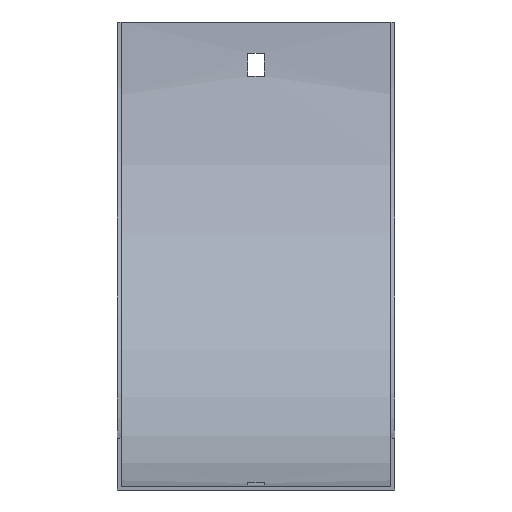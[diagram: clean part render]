
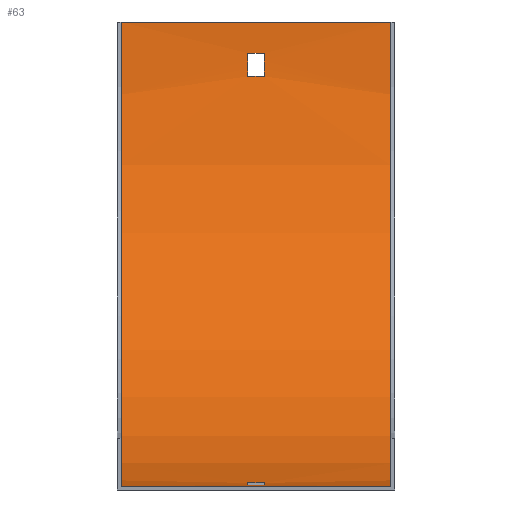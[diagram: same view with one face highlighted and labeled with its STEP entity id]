
A CAD part, front view. The second image highlights one B-rep face of the part: STEP entity #63.
In plain terms, the highlighted cylindrical face has radius 179 mm (diameter 358 mm), a partial arc.
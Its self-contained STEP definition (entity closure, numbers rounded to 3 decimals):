
#10 = CARTESIAN_POINT ( 'NONE',  ( -3.25, -159.5, -177.764 ) ) ;
#27 = VECTOR ( 'NONE', #588, 1000. ) ;
#28 = VERTEX_POINT ( 'NONE', #115 ) ;
#43 = EDGE_CURVE ( 'NONE', #386, #476, #398, .T. ) ;
#49 = CARTESIAN_POINT ( 'NONE',  ( 53.5, -168.5, -178.597 ) ) ;
#63 = ADVANCED_FACE ( 'NONE', ( #392, #579, #152 ), #259, .F. ) ;
#66 = AXIS2_PLACEMENT_3D ( 'NONE', #534, #215, #407 ) ;
#69 = DIRECTION ( 'NONE',  ( 1., 0., 0. ) ) ;
#76 = AXIS2_PLACEMENT_3D ( 'NONE', #154, #347, #489 ) ;
#79 = VERTEX_POINT ( 'NONE', #306 ) ;
#90 = EDGE_CURVE ( 'NONE', #280, #602, #465, .T. ) ;
#94 = DIRECTION ( 'NONE',  ( 1., 0., 0. ) ) ;
#98 = EDGE_CURVE ( 'NONE', #380, #309, #254, .T. ) ;
#103 = ORIENTED_EDGE ( 'NONE', *, *, #236, .T. ) ;
#112 = DIRECTION ( 'NONE',  ( 0., 0., 1. ) ) ;
#115 = CARTESIAN_POINT ( 'NONE',  ( 3.25, -159.5, -177.764 ) ) ;
#118 = CARTESIAN_POINT ( 'NONE',  ( 3.25, -180.5, 0. ) ) ;
#126 = DIRECTION ( 'NONE',  ( 1., 0., 0. ) ) ;
#138 = EDGE_CURVE ( 'NONE', #28, #414, #490, .T. ) ;
#148 = VECTOR ( 'NONE', #385, 1000. ) ;
#152 = FACE_BOUND ( 'NONE', #599, .T. ) ;
#154 = CARTESIAN_POINT ( 'NONE',  ( 53.5, -180.5, 0. ) ) ;
#159 = CARTESIAN_POINT ( 'NONE',  ( 53.5, -2.736, -21. ) ) ;
#160 = CARTESIAN_POINT ( 'NONE',  ( -52., -180.5, 0. ) ) ;
#163 = EDGE_CURVE ( 'NONE', #380, #386, #410, .T. ) ;
#168 = VERTEX_POINT ( 'NONE', #314 ) ;
#176 = DIRECTION ( 'NONE',  ( -1., 0., 0. ) ) ;
#179 = DIRECTION ( 'NONE',  ( 0., 0., 1. ) ) ;
#180 = EDGE_CURVE ( 'NONE', #79, #498, #216, .T. ) ;
#182 = CARTESIAN_POINT ( 'NONE',  ( 3.25, -1.903, -12. ) ) ;
#188 = CARTESIAN_POINT ( 'NONE',  ( 3.25, -168.5, -178.597 ) ) ;
#189 = CARTESIAN_POINT ( 'NONE',  ( 52., -180.5, 0. ) ) ;
#190 = ORIENTED_EDGE ( 'NONE', *, *, #520, .F. ) ;
#193 = DIRECTION ( 'NONE',  ( 1., 0., 0. ) ) ;
#211 = CARTESIAN_POINT ( 'NONE',  ( -52., -1.5, 0. ) ) ;
#215 = DIRECTION ( 'NONE',  ( -1., 0., 0. ) ) ;
#216 = LINE ( 'NONE', #159, #352 ) ;
#218 = AXIS2_PLACEMENT_3D ( 'NONE', #189, #94, #179 ) ;
#219 = EDGE_LOOP ( 'NONE', ( #562, #536, #226, #331 ) ) ;
#226 = ORIENTED_EDGE ( 'NONE', *, *, #98, .T. ) ;
#227 = DIRECTION ( 'NONE',  ( -1., 0., 0. ) ) ;
#228 = ORIENTED_EDGE ( 'NONE', *, *, #90, .F. ) ;
#229 = VECTOR ( 'NONE', #227, 1000. ) ;
#236 = EDGE_CURVE ( 'NONE', #414, #168, #416, .T. ) ;
#246 = CARTESIAN_POINT ( 'NONE',  ( 53.5, -159.5, -177.764 ) ) ;
#249 = CARTESIAN_POINT ( 'NONE',  ( 52., -180.5, -179. ) ) ;
#254 = CIRCLE ( 'NONE', #218, 179. ) ;
#258 = CARTESIAN_POINT ( 'NONE',  ( 52., -1.5, 0. ) ) ;
#259 = CYLINDRICAL_SURFACE ( 'NONE', #76, 179. ) ;
#277 = AXIS2_PLACEMENT_3D ( 'NONE', #118, #126, #491 ) ;
#280 = VERTEX_POINT ( 'NONE', #182 ) ;
#299 = DIRECTION ( 'NONE',  ( 1., 0., 0. ) ) ;
#306 = CARTESIAN_POINT ( 'NONE',  ( -3.25, -2.736, -21. ) ) ;
#309 = VERTEX_POINT ( 'NONE', #367 ) ;
#314 = CARTESIAN_POINT ( 'NONE',  ( -3.25, -168.5, -178.597 ) ) ;
#331 = ORIENTED_EDGE ( 'NONE', *, *, #515, .T. ) ;
#341 = CARTESIAN_POINT ( 'NONE',  ( -52., -180.5, -179. ) ) ;
#347 = DIRECTION ( 'NONE',  ( -1., 0., 0. ) ) ;
#350 = ORIENTED_EDGE ( 'NONE', *, *, #138, .T. ) ;
#352 = VECTOR ( 'NONE', #595, 1000. ) ;
#356 = ORIENTED_EDGE ( 'NONE', *, *, #578, .F. ) ;
#362 = CIRCLE ( 'NONE', #277, 179. ) ;
#367 = CARTESIAN_POINT ( 'NONE',  ( 52., -1.5, 0. ) ) ;
#370 = DIRECTION ( 'NONE',  ( -1., 0., 0. ) ) ;
#378 = VERTEX_POINT ( 'NONE', #10 ) ;
#380 = VERTEX_POINT ( 'NONE', #431 ) ;
#382 = LINE ( 'NONE', #246, #471 ) ;
#385 = DIRECTION ( 'NONE',  ( -1., 0., 0. ) ) ;
#386 = VERTEX_POINT ( 'NONE', #341 ) ;
#392 = FACE_BOUND ( 'NONE', #513, .T. ) ;
#398 = CIRCLE ( 'NONE', #483, 179. ) ;
#407 = DIRECTION ( 'NONE',  ( 0., 0., 1. ) ) ;
#410 = LINE ( 'NONE', #249, #148 ) ;
#414 = VERTEX_POINT ( 'NONE', #188 ) ;
#416 = LINE ( 'NONE', #49, #461 ) ;
#417 = CARTESIAN_POINT ( 'NONE',  ( 53.5, -1.903, -12. ) ) ;
#427 = EDGE_CURVE ( 'NONE', #378, #28, #382, .T. ) ;
#431 = CARTESIAN_POINT ( 'NONE',  ( 52., -180.5, -179. ) ) ;
#432 = CARTESIAN_POINT ( 'NONE',  ( 3.25, -180.5, 0. ) ) ;
#437 = CARTESIAN_POINT ( 'NONE',  ( -3.25, -180.5, 0. ) ) ;
#438 = ORIENTED_EDGE ( 'NONE', *, *, #427, .T. ) ;
#440 = CIRCLE ( 'NONE', #508, 179. ) ;
#446 = CARTESIAN_POINT ( 'NONE',  ( 3.25, -2.736, -21. ) ) ;
#458 = EDGE_CURVE ( 'NONE', #168, #378, #440, .T. ) ;
#461 = VECTOR ( 'NONE', #370, 1000. ) ;
#465 = LINE ( 'NONE', #417, #229 ) ;
#471 = VECTOR ( 'NONE', #299, 1000. ) ;
#476 = VERTEX_POINT ( 'NONE', #211 ) ;
#483 = AXIS2_PLACEMENT_3D ( 'NONE', #160, #69, #112 ) ;
#487 = ORIENTED_EDGE ( 'NONE', *, *, #180, .F. ) ;
#489 = DIRECTION ( 'NONE',  ( 0., 0., 1. ) ) ;
#490 = CIRCLE ( 'NONE', #566, 179. ) ;
#491 = DIRECTION ( 'NONE',  ( 0., 0., -1. ) ) ;
#498 = VERTEX_POINT ( 'NONE', #446 ) ;
#499 = LINE ( 'NONE', #258, #27 ) ;
#508 = AXIS2_PLACEMENT_3D ( 'NONE', #437, #193, #584 ) ;
#513 = EDGE_LOOP ( 'NONE', ( #356, #228, #190, #487 ) ) ;
#515 = EDGE_CURVE ( 'NONE', #309, #476, #499, .T. ) ;
#520 = EDGE_CURVE ( 'NONE', #498, #280, #362, .T. ) ;
#528 = CIRCLE ( 'NONE', #66, 179. ) ;
#534 = CARTESIAN_POINT ( 'NONE',  ( -3.25, -180.5, 0. ) ) ;
#536 = ORIENTED_EDGE ( 'NONE', *, *, #163, .F. ) ;
#560 = DIRECTION ( 'NONE',  ( 0., 0., 1. ) ) ;
#562 = ORIENTED_EDGE ( 'NONE', *, *, #43, .F. ) ;
#566 = AXIS2_PLACEMENT_3D ( 'NONE', #432, #176, #560 ) ;
#575 = CARTESIAN_POINT ( 'NONE',  ( -3.25, -1.903, -12. ) ) ;
#578 = EDGE_CURVE ( 'NONE', #602, #79, #528, .T. ) ;
#579 = FACE_OUTER_BOUND ( 'NONE', #219, .T. ) ;
#584 = DIRECTION ( 'NONE',  ( 0., 0., -1. ) ) ;
#588 = DIRECTION ( 'NONE',  ( -1., 0., 0. ) ) ;
#595 = DIRECTION ( 'NONE',  ( 1., 0., 0. ) ) ;
#599 = EDGE_LOOP ( 'NONE', ( #103, #601, #438, #350 ) ) ;
#601 = ORIENTED_EDGE ( 'NONE', *, *, #458, .T. ) ;
#602 = VERTEX_POINT ( 'NONE', #575 ) ;
